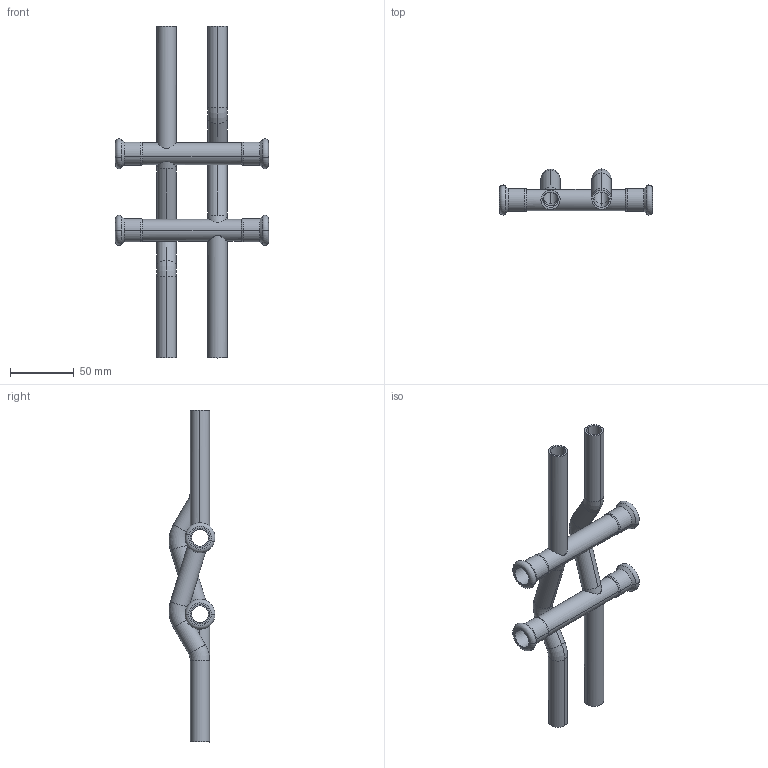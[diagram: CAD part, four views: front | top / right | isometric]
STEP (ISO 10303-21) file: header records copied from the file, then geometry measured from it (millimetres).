
FILE_DESCRIPTION(('CoCreate Modeling STEP Export'),'2;1');
FILE_NAME('C1436 15x15.stp','2015-08-13T 9:18:02',(''),(''),'CoCreate Modeling STEP processor for AP214 (Solid Model)','CoCreate Modeling 17.00A 17-Jun-2010 (C) Parametric Technology GmbH','');
FILE_SCHEMA(('AUTOMOTIVE_DESIGN { 1 0 10303 214 1 1 1 1 }'));
Length unit declared in the file: millimetre
Products named in the file (5): 620866.4.1; 620860.9.1; 620866.4.1.1; 620860.9.1.1; C1436-15x15
Assembly tree (4 placements, depth 2):
  C1436-15x15
    620860.9.1.1
    620866.4.1.1
    620860.9.1
    620866.4.1
Bounding box: 120 x 36.04 x 260.29 mm (x, y, z)
Volume: 52788.3 mm3; surface area: 67859.2 mm2
Topology: 4 solids, 4 shells, 142 faces, 318 edges, 196 vertices
Faces by surface type: cylinder 72, torus 32, plane 20, cone 16, bspline 2
Entity records: 9331 total; most frequent: CARTESIAN_POINT 6457, ORIENTED_EDGE 636, DIRECTION 490, EDGE_CURVE 318, AXIS2_PLACEMENT_3D 201, VERTEX_POINT 196, EDGE_LOOP 170, FACE_OUTER_BOUND 142
